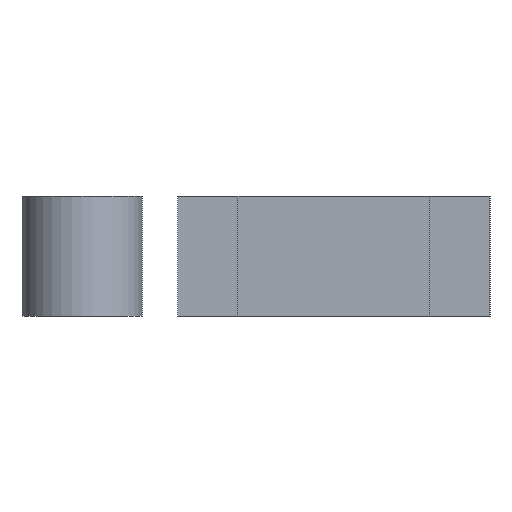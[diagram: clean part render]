
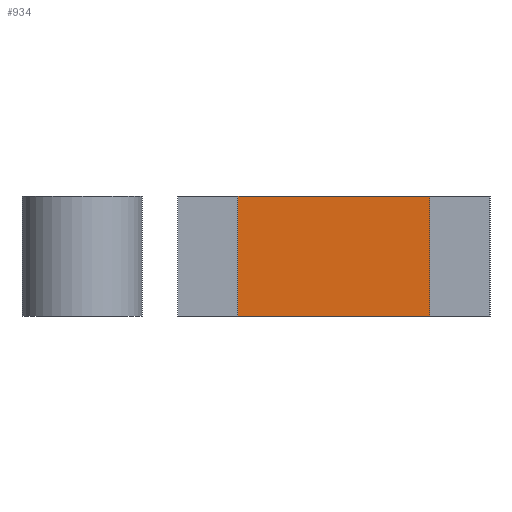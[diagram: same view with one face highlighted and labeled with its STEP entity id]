
A CAD part, left-side view. The second image highlights one B-rep face of the part: STEP entity #934.
In plain terms, the highlighted planar face has unit normal (-1, 0, 0).
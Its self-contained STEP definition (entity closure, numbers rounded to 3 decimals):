
#102 = PLANE('',#103);
#103 = AXIS2_PLACEMENT_3D('',#104,#105,#106);
#104 = CARTESIAN_POINT('',(0.,0.,10.));
#105 = DIRECTION('',(0.,0.,1.));
#106 = DIRECTION('',(1.,0.,-0.));
#156 = PLANE('',#157);
#157 = AXIS2_PLACEMENT_3D('',#158,#159,#160);
#158 = CARTESIAN_POINT('',(0.,0.,0.));
#159 = DIRECTION('',(0.,0.,1.));
#160 = DIRECTION('',(1.,0.,-0.));
#209 = PLANE('',#210);
#210 = AXIS2_PLACEMENT_3D('',#211,#212,#213);
#211 = CARTESIAN_POINT('',(-56.15,-8.,0.));
#212 = DIRECTION('',(0.,1.,0.));
#213 = DIRECTION('',(1.,0.,0.));
#320 = VERTEX_POINT('',#321);
#321 = CARTESIAN_POINT('',(-56.15,-8.,0.));
#568 = VERTEX_POINT('',#569);
#569 = CARTESIAN_POINT('',(-56.15,8.,0.));
#583 = PLANE('',#584);
#584 = AXIS2_PLACEMENT_3D('',#585,#586,#587);
#585 = CARTESIAN_POINT('',(56.15,8.,0.));
#586 = DIRECTION('',(0.,-1.,0.));
#587 = DIRECTION('',(-1.,0.,0.));
#595 = EDGE_CURVE('',#568,#320,#596,.T.);
#596 = SURFACE_CURVE('',#597,(#601,#608),.PCURVE_S1.);
#597 = LINE('',#598,#599);
#598 = CARTESIAN_POINT('',(-56.15,8.,0.));
#599 = VECTOR('',#600,1.);
#600 = DIRECTION('',(0.,-1.,0.));
#601 = PCURVE('',#156,#602);
#602 = DEFINITIONAL_REPRESENTATION('',(#603),#607);
#603 = LINE('',#604,#605);
#604 = CARTESIAN_POINT('',(-56.15,8.));
#605 = VECTOR('',#606,1.);
#606 = DIRECTION('',(0.,-1.));
#607 = ( GEOMETRIC_REPRESENTATION_CONTEXT(2) 
PARAMETRIC_REPRESENTATION_CONTEXT() REPRESENTATION_CONTEXT('2D SPACE',''
  ) );
#608 = PCURVE('',#609,#614);
#609 = PLANE('',#610);
#610 = AXIS2_PLACEMENT_3D('',#611,#612,#613);
#611 = CARTESIAN_POINT('',(-56.15,8.,0.));
#612 = DIRECTION('',(1.,0.,-0.));
#613 = DIRECTION('',(0.,-1.,0.));
#614 = DEFINITIONAL_REPRESENTATION('',(#615),#619);
#615 = LINE('',#616,#617);
#616 = CARTESIAN_POINT('',(0.,0.));
#617 = VECTOR('',#618,1.);
#618 = DIRECTION('',(1.,0.));
#619 = ( GEOMETRIC_REPRESENTATION_CONTEXT(2) 
PARAMETRIC_REPRESENTATION_CONTEXT() REPRESENTATION_CONTEXT('2D SPACE',''
  ) );
#625 = VERTEX_POINT('',#626);
#626 = CARTESIAN_POINT('',(-56.15,-8.,10.));
#838 = VERTEX_POINT('',#839);
#839 = CARTESIAN_POINT('',(-56.15,8.,10.));
#860 = EDGE_CURVE('',#838,#625,#861,.T.);
#861 = SURFACE_CURVE('',#862,(#866,#873),.PCURVE_S1.);
#862 = LINE('',#863,#864);
#863 = CARTESIAN_POINT('',(-56.15,8.,10.));
#864 = VECTOR('',#865,1.);
#865 = DIRECTION('',(0.,-1.,0.));
#866 = PCURVE('',#102,#867);
#867 = DEFINITIONAL_REPRESENTATION('',(#868),#872);
#868 = LINE('',#869,#870);
#869 = CARTESIAN_POINT('',(-56.15,8.));
#870 = VECTOR('',#871,1.);
#871 = DIRECTION('',(0.,-1.));
#872 = ( GEOMETRIC_REPRESENTATION_CONTEXT(2) 
PARAMETRIC_REPRESENTATION_CONTEXT() REPRESENTATION_CONTEXT('2D SPACE',''
  ) );
#873 = PCURVE('',#609,#874);
#874 = DEFINITIONAL_REPRESENTATION('',(#875),#879);
#875 = LINE('',#876,#877);
#876 = CARTESIAN_POINT('',(0.,-10.));
#877 = VECTOR('',#878,1.);
#878 = DIRECTION('',(1.,0.));
#879 = ( GEOMETRIC_REPRESENTATION_CONTEXT(2) 
PARAMETRIC_REPRESENTATION_CONTEXT() REPRESENTATION_CONTEXT('2D SPACE',''
  ) );
#885 = EDGE_CURVE('',#320,#625,#886,.T.);
#886 = SURFACE_CURVE('',#887,(#891,#898),.PCURVE_S1.);
#887 = LINE('',#888,#889);
#888 = CARTESIAN_POINT('',(-56.15,-8.,0.));
#889 = VECTOR('',#890,1.);
#890 = DIRECTION('',(0.,0.,1.));
#891 = PCURVE('',#209,#892);
#892 = DEFINITIONAL_REPRESENTATION('',(#893),#897);
#893 = LINE('',#894,#895);
#894 = CARTESIAN_POINT('',(0.,0.));
#895 = VECTOR('',#896,1.);
#896 = DIRECTION('',(0.,-1.));
#897 = ( GEOMETRIC_REPRESENTATION_CONTEXT(2) 
PARAMETRIC_REPRESENTATION_CONTEXT() REPRESENTATION_CONTEXT('2D SPACE',''
  ) );
#898 = PCURVE('',#609,#899);
#899 = DEFINITIONAL_REPRESENTATION('',(#900),#904);
#900 = LINE('',#901,#902);
#901 = CARTESIAN_POINT('',(16.,0.));
#902 = VECTOR('',#903,1.);
#903 = DIRECTION('',(0.,-1.));
#904 = ( GEOMETRIC_REPRESENTATION_CONTEXT(2) 
PARAMETRIC_REPRESENTATION_CONTEXT() REPRESENTATION_CONTEXT('2D SPACE',''
  ) );
#934 = ADVANCED_FACE('',(#935),#609,.F.);
#935 = FACE_BOUND('',#936,.F.);
#936 = EDGE_LOOP('',(#937,#958,#959,#960));
#937 = ORIENTED_EDGE('',*,*,#938,.T.);
#938 = EDGE_CURVE('',#568,#838,#939,.T.);
#939 = SURFACE_CURVE('',#940,(#944,#951),.PCURVE_S1.);
#940 = LINE('',#941,#942);
#941 = CARTESIAN_POINT('',(-56.15,8.,0.));
#942 = VECTOR('',#943,1.);
#943 = DIRECTION('',(0.,0.,1.));
#944 = PCURVE('',#609,#945);
#945 = DEFINITIONAL_REPRESENTATION('',(#946),#950);
#946 = LINE('',#947,#948);
#947 = CARTESIAN_POINT('',(0.,0.));
#948 = VECTOR('',#949,1.);
#949 = DIRECTION('',(0.,-1.));
#950 = ( GEOMETRIC_REPRESENTATION_CONTEXT(2) 
PARAMETRIC_REPRESENTATION_CONTEXT() REPRESENTATION_CONTEXT('2D SPACE',''
  ) );
#951 = PCURVE('',#583,#952);
#952 = DEFINITIONAL_REPRESENTATION('',(#953),#957);
#953 = LINE('',#954,#955);
#954 = CARTESIAN_POINT('',(112.3,0.));
#955 = VECTOR('',#956,1.);
#956 = DIRECTION('',(0.,-1.));
#957 = ( GEOMETRIC_REPRESENTATION_CONTEXT(2) 
PARAMETRIC_REPRESENTATION_CONTEXT() REPRESENTATION_CONTEXT('2D SPACE',''
  ) );
#958 = ORIENTED_EDGE('',*,*,#860,.T.);
#959 = ORIENTED_EDGE('',*,*,#885,.F.);
#960 = ORIENTED_EDGE('',*,*,#595,.F.);
